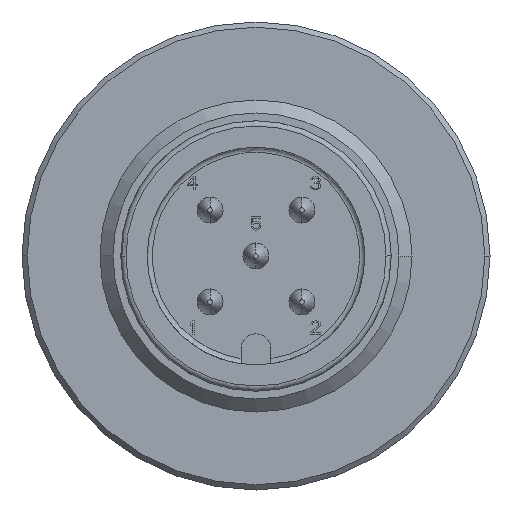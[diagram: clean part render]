
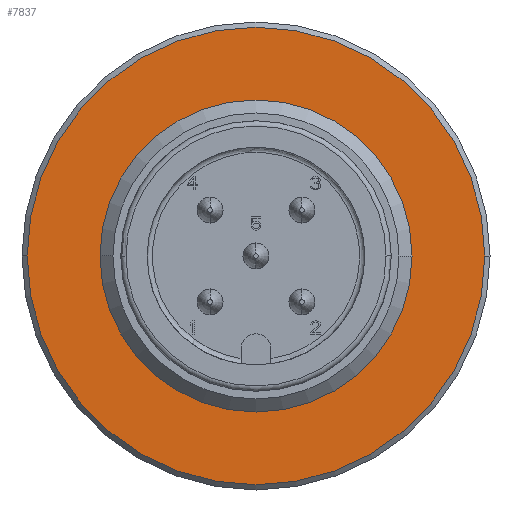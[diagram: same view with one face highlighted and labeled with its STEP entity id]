
A CAD part, front view. The second image highlights one B-rep face of the part: STEP entity #7837.
In plain terms, the highlighted planar face has unit normal (0, -1, 0).
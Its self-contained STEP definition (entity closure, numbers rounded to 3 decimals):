
#1209=CARTESIAN_POINT('',(0.,-11.65,0.));
#1210=DIRECTION('',(0.,1.,0.));
#1211=DIRECTION('',(1.,0.,0.));
#1212=AXIS2_PLACEMENT_3D('',#1209,#1210,#1211);
#1217=CARTESIAN_POINT('',(0.,-11.65,0.));
#1218=DIRECTION('',(0.,1.,0.));
#1219=DIRECTION('',(-1.,0.,0.));
#1220=AXIS2_PLACEMENT_3D('',#1217,#1218,#1219);
#1225=CARTESIAN_POINT('',(0.,-11.65,0.));
#1226=DIRECTION('',(0.,-1.,0.));
#1227=DIRECTION('',(1.,0.,0.));
#1228=AXIS2_PLACEMENT_3D('',#1225,#1226,#1227);
#1233=CARTESIAN_POINT('',(0.,-11.65,0.));
#1234=DIRECTION('',(0.,-1.,0.));
#1235=DIRECTION('',(0.,0.,-1.));
#1236=AXIS2_PLACEMENT_3D('',#1233,#1234,#1235);
#1241=CARTESIAN_POINT('',(0.,-11.65,0.));
#1242=DIRECTION('',(0.,-1.,0.));
#1243=DIRECTION('',(-1.,0.,0.));
#1244=AXIS2_PLACEMENT_3D('',#1241,#1242,#1243);
#1249=CARTESIAN_POINT('',(0.,-11.65,0.));
#1250=DIRECTION('',(0.,-1.,0.));
#1251=DIRECTION('',(0.,0.,1.));
#1252=AXIS2_PLACEMENT_3D('',#1249,#1250,#1251);
#5411=CARTESIAN_POINT('',(8.8,-11.65,0.));
#5412=VERTEX_POINT('',#5411);
#5413=CARTESIAN_POINT('',(0.,-11.65,8.8));
#5414=CARTESIAN_POINT('',(-8.8,-11.65,0.));
#5415=VERTEX_POINT('',#5413);
#5416=VERTEX_POINT('',#5414);
#5417=CARTESIAN_POINT('',(0.,-11.65,-8.8));
#5418=VERTEX_POINT('',#5417);
#5419=CARTESIAN_POINT('',(-6.,-11.65,0.));
#5420=CARTESIAN_POINT('',(6.,-11.65,0.));
#5421=VERTEX_POINT('',#5419);
#5422=VERTEX_POINT('',#5420);
#7820=CARTESIAN_POINT('',(0.,-11.65,0.));
#7821=DIRECTION('',(0.,1.,0.));
#7822=DIRECTION('',(-1.,0.,0.));
#7823=AXIS2_PLACEMENT_3D('',#7820,#7821,#7822);
#7824=PLANE('',#7823);
#7825=ORIENTED_EDGE('',*,*,#7757,.F.);
#7826=ORIENTED_EDGE('',*,*,#7784,.F.);
#7827=ORIENTED_EDGE('',*,*,#7782,.F.);
#7828=ORIENTED_EDGE('',*,*,#7759,.F.);
#7829=EDGE_LOOP('',(#7825,#7826,#7827,#7828));
#7830=FACE_OUTER_BOUND('',#7829,.F.);
#7832=ORIENTED_EDGE('',*,*,#7831,.F.);
#7834=ORIENTED_EDGE('',*,*,#7833,.F.);
#7835=EDGE_LOOP('',(#7832,#7834));
#7836=FACE_BOUND('',#7835,.F.);
#1213=CIRCLE('',#1212,6.);
#1221=CIRCLE('',#1220,6.);
#1229=CIRCLE('',#1228,8.8);
#1237=CIRCLE('',#1236,8.8);
#1245=CIRCLE('',#1244,8.8);
#1253=CIRCLE('',#1252,8.8);
#7757=EDGE_CURVE('',#5412,#5415,#1229,.T.);
#7759=EDGE_CURVE('',#5415,#5416,#1253,.T.);
#7782=EDGE_CURVE('',#5416,#5418,#1245,.T.);
#7784=EDGE_CURVE('',#5418,#5412,#1237,.T.);
#7831=EDGE_CURVE('',#5422,#5421,#1213,.T.);
#7833=EDGE_CURVE('',#5421,#5422,#1221,.T.);
#7837=ADVANCED_FACE('',(#7830,#7836),#7824,.F.);
